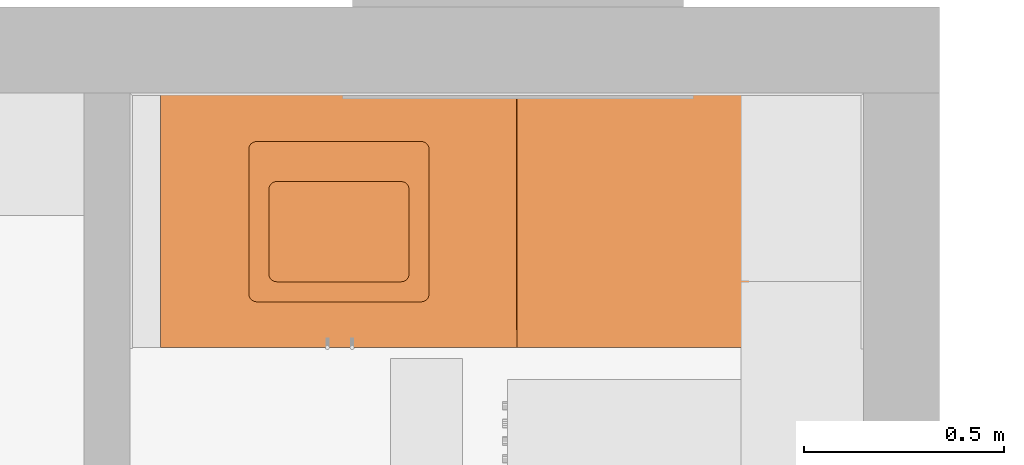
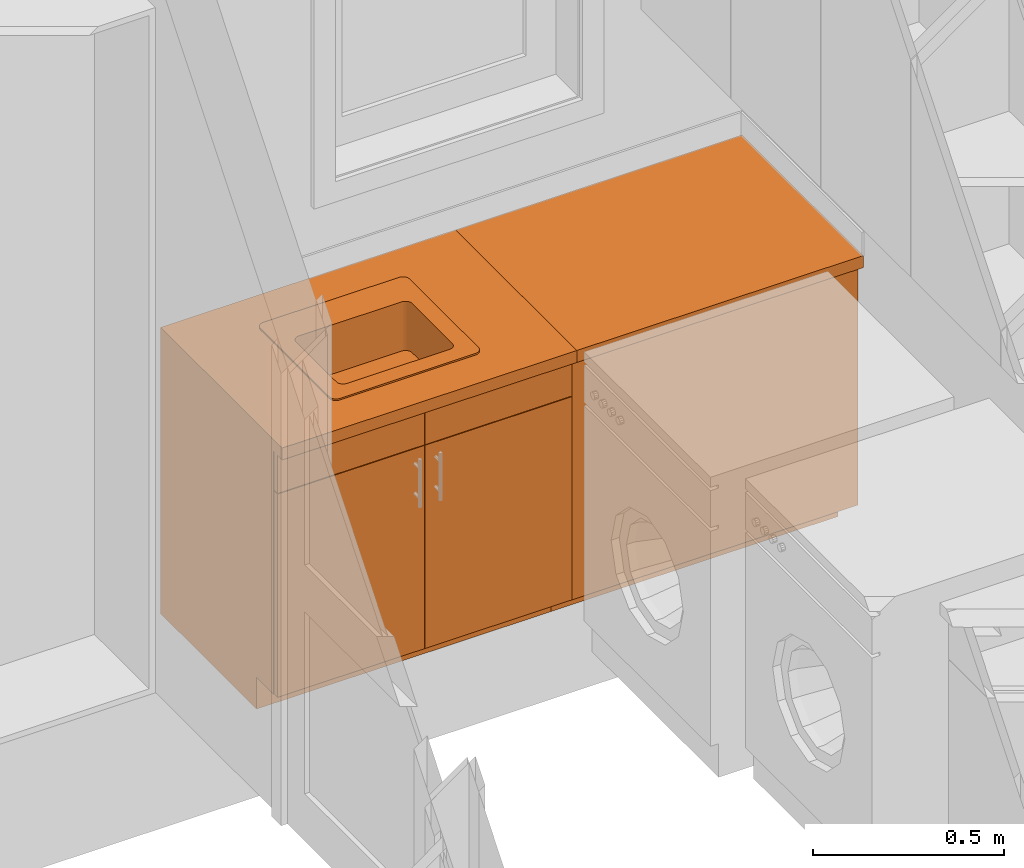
# One storey, part 72 of 77: 2 proxies.
"""IFC2X3 building model written with IfcOpenShell, lengths in inches."""

from ifc_helpers import new_model, entity, si_unit, converted_unit, derived_unit, money_unit, direction, frame, origin_with_axes, place, context, subcontext, project, spatial, open_shell, faceted_brep, surface_model, type_object, element, save


model = new_model("IFC2X3")

# Units and contexts
model_context = context("Model", 3, precision=0.000393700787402, world=origin_with_axes(), true_north=direction((0.0, 1.0)))
body_context = subcontext(model_context, "Body", "Model", "MODEL_VIEW")
ifc_project = project(units=[converted_unit("LENGTHUNIT", "INCH", entity("IfcPositiveLengthMeasure", 0.0254), si_unit("LENGTHUNIT", "METRE"), dimensions=[1, 0, 0, 0, 0, 0, 0]), converted_unit("AREAUNIT", "SQUARE_FOOT", entity("IfcPositiveLengthMeasure", 0.09290304), si_unit("AREAUNIT", "SQUARE_METRE"), dimensions=[2, 0, 0, 0, 0, 0, 0]), si_unit("PLANEANGLEUNIT", "RADIAN"), si_unit("SOLIDANGLEUNIT", "STERADIAN"), money_unit("USD"), converted_unit("TIMEUNIT", "Year", entity("IfcTimeMeasure", 31556926.0), si_unit("TIMEUNIT", "SECOND"), dimensions=[0, 0, 1, 0, 0, 0, 0]), si_unit("MASSUNIT", "GRAM", prefix="KILO"), si_unit("THERMODYNAMICTEMPERATUREUNIT", "DEGREE_CELSIUS"), si_unit("LUMINOUSINTENSITYUNIT", "LUMEN"), si_unit("ENERGYUNIT", "JOULE", prefix="MEGA"), derived_unit("THERMALCONDUCTANCEUNIT", [(si_unit("POWERUNIT", "WATT"), 1), (si_unit("LENGTHUNIT", "METRE"), -1), (si_unit("THERMODYNAMICTEMPERATUREUNIT", "KELVIN"), -1)]), derived_unit("SPECIFICHEATCAPACITYUNIT", [(si_unit("ENERGYUNIT", "JOULE"), 1), (si_unit("MASSUNIT", "GRAM", prefix="KILO"), -1), (si_unit("THERMODYNAMICTEMPERATUREUNIT", "KELVIN"), -1)]), derived_unit("MASSDENSITYUNIT", [(si_unit("MASSUNIT", "GRAM", prefix="KILO"), 1), (si_unit("VOLUMEUNIT", "CUBIC_METRE"), -1)])], contexts=[model_context])

# Site, building, storey
site_placement = place(None, origin_with_axes())
site = spatial("IfcSite", under=ifc_project, at=site_placement, Name="Site", CompositionType="ELEMENT")
building_placement = place(site_placement, origin_with_axes())
building = spatial("IfcBuilding", under=site, at=building_placement, Name="Building", CompositionType="ELEMENT")
storey_placement = place(building_placement, frame((0.0, 0.0, 127.952755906), z_axis=(0.0, 0.0, 1.0), x_axis=(1.0, 0.0, 0.0)))
storey = spatial("IfcBuildingStorey", under=building, at=storey_placement, Name="Second Floor", CompositionType="ELEMENT", Elevation=127.953)

# Proxies
building_element_proxy_type = type_object("IfcBuildingElementProxyType", Name="Base Cabinet Block 25", PredefinedType="NOTDEFINED")
proxy_1_placement = place(storey_placement, frame((650.489373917, 581.014426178, 0.0), z_axis=(0.0, 0.0, 1.0), x_axis=(1.0, 0.0, 0.0)))
element("IfcBuildingElementProxy", 1, at=proxy_1_placement, inside=storey, type_object=building_element_proxy_type, Name="FU - 025", context=body_context, shape_type="SurfaceModel", body=[
    surface_model("IfcShellBasedSurfaceModel", [(11.4173228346, -18.5255904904, 28.1456692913), (23.6220472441, -18.5255904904, 28.1456692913), (23.6220472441, -18.5255904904, 35.9488188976), (11.4173228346, -18.5255904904, 35.9488188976), (11.2805919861, -18.5136280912, 28.1456692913), (11.1480156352, -18.478104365, 28.1456692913), (11.0236220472, -18.4200986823, 28.1456692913), (10.9111908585, -18.3413735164, 28.1456692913), (10.8141382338, -18.2443208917, 28.1456692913), (10.7354130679, -18.131889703, 28.1456692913), (10.6774073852, -18.007496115, 28.1456692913), (10.641883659, -17.8749197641, 28.1456692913), (10.6299212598, -17.7381889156, 28.1456692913), (10.6299212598, -9.47047238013, 28.1456692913), (10.641883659, -9.33374153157, 28.1456692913), (10.6774073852, -9.20116518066, 28.1456692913), (10.7354130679, -9.07677159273, 28.1456692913), (10.8141382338, -8.964340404, 28.1456692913), (10.9111908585, -8.86728777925, 28.1456692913), (11.0236220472, -8.78856261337, 28.1456692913), (11.1480156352, -8.73055693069, 28.1456692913), (11.2805919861, -8.69503320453, 28.1456692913), (11.4173228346, -8.68307080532, 28.1456692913), (23.6220472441, -8.68307080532, 28.1456692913), (23.7587780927, -8.69503320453, 28.1456692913), (23.8913544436, -8.73055693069, 28.1456692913), (24.0157480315, -8.78856261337, 28.1456692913), (24.1281792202, -8.86728777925, 28.1456692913), (24.225231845, -8.964340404, 28.1456692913), (24.3039570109, -9.07677159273, 28.1456692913), (24.3619626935, -9.20116518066, 28.1456692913), (24.3974864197, -9.33374153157, 28.1456692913), (24.4094488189, -9.47047238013, 28.1456692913), (24.4094488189, -17.7381889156, 28.1456692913), (24.3974864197, -17.8749197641, 28.1456692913), (24.3619626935, -18.007496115, 28.1456692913), (24.3039570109, -18.131889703, 28.1456692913), (24.225231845, -18.2443208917, 28.1456692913), (24.1281792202, -18.3413735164, 28.1456692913), (24.0157480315, -18.4200986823, 28.1456692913), (23.8913544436, -18.478104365, 28.1456692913), (23.7587780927, -18.5136280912, 28.1456692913), (23.7587780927, -18.5136280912, 35.9488188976), (11.2805919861, -18.5136280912, 35.9488188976), (11.1480156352, -18.478104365, 35.9488188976), (11.0236220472, -18.4200986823, 35.9488188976), (10.9111908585, -18.3413735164, 35.9488188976), (10.8141382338, -18.2443208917, 35.9488188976), (10.7354130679, -18.131889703, 35.9488188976), (10.6774073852, -18.007496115, 35.9488188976), (10.641883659, -17.8749197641, 35.9488188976), (10.6299212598, -17.7381889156, 35.9488188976), (10.6299212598, -9.47047238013, 35.9488188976), (10.641883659, -9.33374153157, 35.9488188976), (10.6774073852, -9.20116518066, 35.9488188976), (10.7354130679, -9.07677159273, 35.9488188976), (10.8141382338, -8.964340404, 35.9488188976), (10.9111908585, -8.86728777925, 35.9488188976), (11.0236220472, -8.78856261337, 35.9488188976), (11.1480156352, -8.73055693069, 35.9488188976), (11.2805919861, -8.69503320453, 35.9488188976), (11.4173228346, -8.68307080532, 35.9488188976), (23.6220472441, -8.68307080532, 35.9488188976), (23.7587780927, -8.69503320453, 35.9488188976), (23.8913544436, -8.73055693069, 35.9488188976), (24.0157480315, -8.78856261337, 35.9488188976), (24.1281792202, -8.86728777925, 35.9488188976), (24.225231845, -8.964340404, 35.9488188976), (24.3039570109, -9.07677159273, 35.9488188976), (24.3619626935, -9.20116518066, 35.9488188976), (24.3974864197, -9.33374153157, 35.9488188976), (24.4094488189, -9.47047238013, 35.9488188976), (24.4094488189, -17.7381889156, 35.9488188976), (24.3974864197, -17.8749197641, 35.9488188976), (24.3619626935, -18.007496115, 35.9488188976), (24.3039570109, -18.131889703, 35.9488188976), (24.225231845, -18.2443208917, 35.9488188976), (24.1281792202, -18.3413735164, 35.9488188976), (24.0157480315, -18.4200986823, 35.9488188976), (23.8913544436, -18.478104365, 35.9488188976)], [open_shell([[[0, 1, 2, 3]], [[0, 4, 5, 6, 7, 8, 9, 10, 11, 12, 13, 14, 15, 16, 17, 18, 19, 20, 21, 22, 23, 24, 25, 26, 27, 28, 29, 30, 31, 32, 33, 34, 35, 36, 37, 38, 39, 40, 41, 1]], [[1, 41, 42, 2]], [[4, 0, 3, 43]], [[5, 4, 43, 44]], [[6, 5, 44, 45]], [[7, 6, 45, 46]], [[8, 7, 46, 47]], [[9, 8, 47, 48]], [[10, 9, 48, 49]], [[11, 10, 49, 50]], [[12, 11, 50, 51]], [[13, 12, 51, 52]], [[14, 13, 52, 53]], [[15, 14, 53, 54]], [[16, 15, 54, 55]], [[17, 16, 55, 56]], [[18, 17, 56, 57]], [[19, 18, 57, 58]], [[20, 19, 58, 59]], [[21, 20, 59, 60]], [[22, 21, 60, 61]], [[23, 22, 61, 62]], [[24, 23, 62, 63]], [[25, 24, 63, 64]], [[26, 25, 64, 65]], [[27, 26, 65, 66]], [[28, 27, 66, 67]], [[29, 28, 67, 68]], [[30, 29, 68, 69]], [[31, 30, 69, 70]], [[32, 31, 70, 71]], [[33, 32, 71, 72]], [[34, 33, 72, 73]], [[35, 34, 73, 74]], [[36, 35, 74, 75]], [[37, 36, 75, 76]], [[38, 37, 76, 77]], [[39, 38, 77, 78]], [[40, 39, 78, 79]], [[41, 40, 79, 42]]])]),
    faceted_brep([(9.44881889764, -20.4940944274, 35.9488188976), (25.5905511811, -20.4940944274, 35.9488188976), (25.5905511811, -20.4940944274, 36.1456692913), (9.44881889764, -20.4940944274, 36.1456692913), (9.31208804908, -20.4821320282, 35.9488188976), (9.17951169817, -20.446608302, 35.9488188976), (9.05511811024, -20.3886026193, 35.9488188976), (8.94268692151, -20.3098774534, 35.9488188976), (8.84563429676, -20.2128248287, 35.9488188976), (8.76690913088, -20.10039364, 35.9488188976), (8.7089034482, -19.976000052, 35.9488188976), (8.67337972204, -19.8434237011, 35.9488188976), (8.66141732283, -19.7066928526, 35.9488188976), (8.66141732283, -5.53346450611, 35.9488188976), (8.67337972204, -5.39673365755, 35.9488188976), (8.7089034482, -5.26415730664, 35.9488188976), (8.76690913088, -5.13976371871, 35.9488188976), (8.84563429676, -5.02733252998, 35.9488188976), (8.94268692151, -4.93027990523, 35.9488188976), (9.05511811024, -4.85155473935, 35.9488188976), (9.17951169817, -4.79354905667, 35.9488188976), (9.31208804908, -4.75802533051, 35.9488188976), (9.44881889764, -4.74606293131, 35.9488188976), (25.5905511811, -4.74606293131, 35.9488188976), (25.7272820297, -4.75802533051, 35.9488188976), (25.8598583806, -4.79354905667, 35.9488188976), (25.9842519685, -4.85155473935, 35.9488188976), (26.0966831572, -4.93027990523, 35.9488188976), (26.193735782, -5.02733252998, 35.9488188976), (26.2724609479, -5.13976371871, 35.9488188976), (26.3304666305, -5.26415730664, 35.9488188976), (26.3659903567, -5.39673365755, 35.9488188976), (26.3779527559, -5.53346450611, 35.9488188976), (26.3779527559, -19.7066928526, 35.9488188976), (26.3659903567, -19.8434237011, 35.9488188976), (26.3304666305, -19.976000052, 35.9488188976), (26.2724609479, -20.10039364, 35.9488188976), (26.193735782, -20.2128248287, 35.9488188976), (26.0966831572, -20.3098774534, 35.9488188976), (25.9842519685, -20.3886026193, 35.9488188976), (25.8598583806, -20.446608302, 35.9488188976), (25.7272820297, -20.4821320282, 35.9488188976), (11.4173228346, -18.5255904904, 35.9488188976), (23.6220472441, -18.5255904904, 35.9488188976), (23.7587780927, -18.5136280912, 35.9488188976), (23.8913544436, -18.478104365, 35.9488188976), (24.0157480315, -18.4200986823, 35.9488188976), (24.1281792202, -18.3413735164, 35.9488188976), (24.225231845, -18.2443208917, 35.9488188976), (24.3039570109, -18.131889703, 35.9488188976), (24.3619626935, -18.007496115, 35.9488188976), (24.3974864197, -17.8749197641, 35.9488188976), (24.4094488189, -17.7381889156, 35.9488188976), (24.4094488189, -9.47047238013, 35.9488188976), (24.3974864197, -9.33374153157, 35.9488188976), (24.3619626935, -9.20116518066, 35.9488188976), (24.3039570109, -9.07677159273, 35.9488188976), (24.225231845, -8.964340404, 35.9488188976), (24.1281792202, -8.86728777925, 35.9488188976), (24.0157480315, -8.78856261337, 35.9488188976), (23.8913544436, -8.73055693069, 35.9488188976), (23.7587780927, -8.69503320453, 35.9488188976), (23.6220472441, -8.68307080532, 35.9488188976), (11.4173228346, -8.68307080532, 35.9488188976), (11.2805919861, -8.69503320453, 35.9488188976), (11.1480156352, -8.73055693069, 35.9488188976), (11.0236220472, -8.78856261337, 35.9488188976), (10.9111908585, -8.86728777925, 35.9488188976), (10.8141382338, -8.964340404, 35.9488188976), (10.7354130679, -9.07677159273, 35.9488188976), (10.6774073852, -9.20116518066, 35.9488188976), (10.641883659, -9.33374153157, 35.9488188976), (10.6299212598, -9.47047238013, 35.9488188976), (10.6299212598, -17.7381889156, 35.9488188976), (10.641883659, -17.8749197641, 35.9488188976), (10.6774073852, -18.007496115, 35.9488188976), (10.7354130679, -18.131889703, 35.9488188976), (10.8141382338, -18.2443208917, 35.9488188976), (10.9111908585, -18.3413735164, 35.9488188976), (11.0236220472, -18.4200986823, 35.9488188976), (11.1480156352, -18.478104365, 35.9488188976), (11.2805919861, -18.5136280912, 35.9488188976), (25.7272820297, -20.4821320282, 36.1456692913), (25.8598583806, -20.446608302, 36.1456692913), (25.9842519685, -20.3886026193, 36.1456692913), (26.0966831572, -20.3098774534, 36.1456692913), (26.193735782, -20.2128248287, 36.1456692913), (26.2724609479, -20.10039364, 36.1456692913), (26.3304666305, -19.976000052, 36.1456692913), (26.3659903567, -19.8434237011, 36.1456692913), (26.3779527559, -19.7066928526, 36.1456692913), (26.3779527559, -5.53346450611, 36.1456692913), (26.3659903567, -5.39673365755, 36.1456692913), (26.3304666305, -5.26415730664, 36.1456692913), (26.2724609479, -5.13976371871, 36.1456692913), (26.193735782, -5.02733252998, 36.1456692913), (26.0966831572, -4.93027990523, 36.1456692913), (25.9842519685, -4.85155473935, 36.1456692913), (25.8598583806, -4.79354905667, 36.1456692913), (25.7272820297, -4.75802533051, 36.1456692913), (25.5905511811, -4.74606293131, 36.1456692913), (9.44881889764, -4.74606293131, 36.1456692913), (9.31208804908, -4.75802533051, 36.1456692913), (9.17951169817, -4.79354905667, 36.1456692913), (9.05511811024, -4.85155473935, 36.1456692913), (8.94268692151, -4.93027990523, 36.1456692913), (8.84563429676, -5.02733252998, 36.1456692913), (8.76690913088, -5.13976371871, 36.1456692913), (8.7089034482, -5.26415730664, 36.1456692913), (8.67337972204, -5.39673365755, 36.1456692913), (8.66141732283, -5.53346450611, 36.1456692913), (8.66141732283, -19.7066928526, 36.1456692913), (8.67337972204, -19.8434237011, 36.1456692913), (8.7089034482, -19.976000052, 36.1456692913), (8.76690913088, -20.10039364, 36.1456692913), (8.84563429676, -20.2128248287, 36.1456692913), (8.94268692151, -20.3098774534, 36.1456692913), (9.05511811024, -20.3886026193, 36.1456692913), (9.17951169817, -20.446608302, 36.1456692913), (9.31208804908, -20.4821320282, 36.1456692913), (11.4173228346, -18.5255904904, 36.1456692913), (11.2805919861, -18.5136280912, 36.1456692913), (11.1480156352, -18.478104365, 36.1456692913), (11.0236220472, -18.4200986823, 36.1456692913), (10.9111908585, -18.3413735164, 36.1456692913), (10.8141382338, -18.2443208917, 36.1456692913), (10.7354130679, -18.131889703, 36.1456692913), (10.6774073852, -18.007496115, 36.1456692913), (10.641883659, -17.8749197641, 36.1456692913), (10.6299212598, -17.7381889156, 36.1456692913), (10.6299212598, -9.47047238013, 36.1456692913), (10.641883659, -9.33374153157, 36.1456692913), (10.6774073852, -9.20116518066, 36.1456692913), (10.7354130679, -9.07677159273, 36.1456692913), (10.8141382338, -8.964340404, 36.1456692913), (10.9111908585, -8.86728777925, 36.1456692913), (11.0236220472, -8.78856261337, 36.1456692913), (11.1480156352, -8.73055693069, 36.1456692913), (11.2805919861, -8.69503320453, 36.1456692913), (11.4173228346, -8.68307080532, 36.1456692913), (23.6220472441, -8.68307080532, 36.1456692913), (23.7587780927, -8.69503320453, 36.1456692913), (23.8913544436, -8.73055693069, 36.1456692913), (24.0157480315, -8.78856261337, 36.1456692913), (24.1281792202, -8.86728777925, 36.1456692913), (24.225231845, -8.964340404, 36.1456692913), (24.3039570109, -9.07677159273, 36.1456692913), (24.3619626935, -9.20116518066, 36.1456692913), (24.3974864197, -9.33374153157, 36.1456692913), (24.4094488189, -9.47047238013, 36.1456692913), (24.4094488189, -17.7381889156, 36.1456692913), (24.3974864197, -17.8749197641, 36.1456692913), (24.3619626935, -18.007496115, 36.1456692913), (24.3039570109, -18.131889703, 36.1456692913), (24.225231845, -18.2443208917, 36.1456692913), (24.1281792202, -18.3413735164, 36.1456692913), (24.0157480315, -18.4200986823, 36.1456692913), (23.8913544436, -18.478104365, 36.1456692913), (23.7587780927, -18.5136280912, 36.1456692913), (23.6220472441, -18.5255904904, 36.1456692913)], [[[0, 1, 2, 3]], [[0, 4, 5, 6, 7, 8, 9, 10, 11, 12, 13, 14, 15, 16, 17, 18, 19, 20, 21, 22, 23, 24, 25, 26, 27, 28, 29, 30, 31, 32, 33, 34, 35, 36, 37, 38, 39, 40, 41, 1], [42, 43, 44, 45, 46, 47, 48, 49, 50, 51, 52, 53, 54, 55, 56, 57, 58, 59, 60, 61, 62, 63, 64, 65, 66, 67, 68, 69, 70, 71, 72, 73, 74, 75, 76, 77, 78, 79, 80, 81]], [[1, 41, 82, 2]], [[3, 2, 82, 83, 84, 85, 86, 87, 88, 89, 90, 91, 92, 93, 94, 95, 96, 97, 98, 99, 100, 101, 102, 103, 104, 105, 106, 107, 108, 109, 110, 111, 112, 113, 114, 115, 116, 117, 118, 119], [120, 121, 122, 123, 124, 125, 126, 127, 128, 129, 130, 131, 132, 133, 134, 135, 136, 137, 138, 139, 140, 141, 142, 143, 144, 145, 146, 147, 148, 149, 150, 151, 152, 153, 154, 155, 156, 157, 158, 159]], [[4, 0, 3, 119]], [[5, 4, 119, 118]], [[6, 5, 118, 117]], [[7, 6, 117, 116]], [[8, 7, 116, 115]], [[9, 8, 115, 114]], [[10, 9, 114, 113]], [[11, 10, 113, 112]], [[12, 11, 112, 111]], [[13, 12, 111, 110]], [[14, 13, 110, 109]], [[15, 14, 109, 108]], [[16, 15, 108, 107]], [[17, 16, 107, 106]], [[18, 17, 106, 105]], [[19, 18, 105, 104]], [[20, 19, 104, 103]], [[21, 20, 103, 102]], [[22, 21, 102, 101]], [[23, 22, 101, 100]], [[24, 23, 100, 99]], [[25, 24, 99, 98]], [[26, 25, 98, 97]], [[27, 26, 97, 96]], [[28, 27, 96, 95]], [[29, 28, 95, 94]], [[30, 29, 94, 93]], [[31, 30, 93, 92]], [[32, 31, 92, 91]], [[33, 32, 91, 90]], [[34, 33, 90, 89]], [[35, 34, 89, 88]], [[36, 35, 88, 87]], [[37, 36, 87, 86]], [[38, 37, 86, 85]], [[39, 38, 85, 84]], [[40, 39, 84, 83]], [[41, 40, 83, 82]], [[43, 42, 120, 159]], [[44, 43, 159, 158]], [[45, 44, 158, 157]], [[46, 45, 157, 156]], [[47, 46, 156, 155]], [[48, 47, 155, 154]], [[49, 48, 154, 153]], [[50, 49, 153, 152]], [[51, 50, 152, 151]], [[52, 51, 151, 150]], [[53, 52, 150, 149]], [[54, 53, 149, 148]], [[55, 54, 148, 147]], [[56, 55, 147, 146]], [[57, 56, 146, 145]], [[58, 57, 145, 144]], [[59, 58, 144, 143]], [[60, 59, 143, 142]], [[61, 60, 142, 141]], [[62, 61, 141, 140]], [[63, 62, 140, 139]], [[64, 63, 139, 138]], [[65, 64, 138, 137]], [[66, 65, 137, 136]], [[67, 66, 136, 135]], [[68, 67, 135, 134]], [[69, 68, 134, 133]], [[70, 69, 133, 132]], [[71, 70, 132, 131]], [[72, 71, 131, 130]], [[73, 72, 130, 129]], [[74, 73, 129, 128]], [[75, 74, 128, 127]], [[76, 75, 127, 126]], [[77, 76, 126, 125]], [[78, 77, 125, 124]], [[79, 78, 124, 123]], [[80, 79, 123, 122]], [[81, 80, 122, 121]], [[42, 81, 121, 120]]]),
    faceted_brep([(0.0, 0.0, 34.4488188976), (35.0497358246, 0.0, 34.4488188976), (35.0497358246, -24.9999999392, 34.4488188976), (0.0, -24.9999999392, 34.4488188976), (25.5785887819, -19.0560221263, 34.4488188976), (25.5905511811, -18.9192912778, 34.4488188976), (25.5905511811, -6.32086608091, 34.4488188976), (25.5785887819, -6.18413523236, 34.4488188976), (25.5430650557, -6.05155888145, 34.4488188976), (25.4850593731, -5.92716529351, 34.4488188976), (25.4063342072, -5.81473410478, 34.4488188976), (25.3092815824, -5.71768148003, 34.4488188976), (25.1968503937, -5.63895631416, 34.4488188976), (25.0724568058, -5.58095063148, 34.4488188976), (24.9398804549, -5.54542690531, 34.4488188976), (24.8031496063, -5.53346450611, 34.4488188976), (10.2362204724, -5.53346450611, 34.4488188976), (10.0994896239, -5.54542690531, 34.4488188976), (9.96691327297, -5.58095063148, 34.4488188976), (9.84251968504, -5.63895631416, 34.4488188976), (9.73008849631, -5.71768148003, 34.4488188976), (9.63303587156, -5.81473410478, 34.4488188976), (9.55431070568, -5.92716529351, 34.4488188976), (9.496305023, -6.05155888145, 34.4488188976), (9.46078129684, -6.18413523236, 34.4488188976), (9.44881889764, -6.32086608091, 34.4488188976), (9.44881889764, -18.9192912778, 34.4488188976), (9.46078129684, -19.0560221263, 34.4488188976), (9.496305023, -19.1885984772, 34.4488188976), (9.55431070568, -19.3129920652, 34.4488188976), (9.63303587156, -19.4254232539, 34.4488188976), (9.73008849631, -19.5224758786, 34.4488188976), (9.84251968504, -19.6012010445, 34.4488188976), (9.96691327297, -19.6592067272, 34.4488188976), (10.0994896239, -19.6947304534, 34.4488188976), (10.2362204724, -19.7066928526, 34.4488188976), (24.8031496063, -19.7066928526, 34.4488188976), (24.9398804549, -19.6947304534, 34.4488188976), (25.0724568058, -19.6592067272, 34.4488188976), (25.1968503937, -19.6012010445, 34.4488188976), (25.3092815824, -19.5224758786, 34.4488188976), (25.4063342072, -19.4254232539, 34.4488188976), (25.4850593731, -19.3129920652, 34.4488188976), (25.5430650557, -19.1885984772, 34.4488188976), (0.0, 0.0, 35.9488188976), (35.0497358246, 0.0, 35.9488188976), (35.0497358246, -24.9999999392, 35.9488188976), (0.0, -24.9999999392, 35.9488188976), (25.5785887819, -19.0560221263, 35.9488188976), (25.5905511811, -18.9192912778, 35.9488188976), (25.5905511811, -6.32086608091, 35.9488188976), (25.5785887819, -6.18413523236, 35.9488188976), (25.5430650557, -6.05155888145, 35.9488188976), (25.4850593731, -5.92716529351, 35.9488188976), (25.4063342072, -5.81473410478, 35.9488188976), (25.3092815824, -5.71768148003, 35.9488188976), (25.1968503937, -5.63895631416, 35.9488188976), (25.0724568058, -5.58095063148, 35.9488188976), (24.9398804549, -5.54542690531, 35.9488188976), (24.8031496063, -5.53346450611, 35.9488188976), (10.2362204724, -5.53346450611, 35.9488188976), (10.0994896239, -5.54542690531, 35.9488188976), (9.96691327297, -5.58095063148, 35.9488188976), (9.84251968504, -5.63895631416, 35.9488188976), (9.73008849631, -5.71768148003, 35.9488188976), (9.63303587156, -5.81473410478, 35.9488188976), (9.55431070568, -5.92716529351, 35.9488188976), (9.496305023, -6.05155888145, 35.9488188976), (9.46078129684, -6.18413523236, 35.9488188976), (9.44881889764, -6.32086608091, 35.9488188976), (9.44881889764, -18.9192912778, 35.9488188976), (9.46078129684, -19.0560221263, 35.9488188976), (9.496305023, -19.1885984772, 35.9488188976), (9.55431070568, -19.3129920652, 35.9488188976), (9.63303587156, -19.4254232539, 35.9488188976), (9.73008849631, -19.5224758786, 35.9488188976), (9.84251968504, -19.6012010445, 35.9488188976), (9.96691327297, -19.6592067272, 35.9488188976), (10.0994896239, -19.6947304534, 35.9488188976), (10.2362204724, -19.7066928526, 35.9488188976), (24.8031496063, -19.7066928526, 35.9488188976), (24.9398804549, -19.6947304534, 35.9488188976), (25.0724568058, -19.6592067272, 35.9488188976), (25.1968503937, -19.6012010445, 35.9488188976), (25.3092815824, -19.5224758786, 35.9488188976), (25.4063342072, -19.4254232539, 35.9488188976), (25.4850593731, -19.3129920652, 35.9488188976), (25.5430650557, -19.1885984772, 35.9488188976)], [[[0, 1, 2, 3], [4, 5, 6, 7, 8, 9, 10, 11, 12, 13, 14, 15, 16, 17, 18, 19, 20, 21, 22, 23, 24, 25, 26, 27, 28, 29, 30, 31, 32, 33, 34, 35, 36, 37, 38, 39, 40, 41, 42, 43]], [[0, 44, 45, 1]], [[1, 45, 46, 2]], [[2, 46, 47, 3]], [[3, 47, 44, 0]], [[48, 49, 5, 4]], [[49, 50, 6, 5]], [[50, 51, 7, 6]], [[51, 52, 8, 7]], [[52, 53, 9, 8]], [[53, 54, 10, 9]], [[54, 55, 11, 10]], [[55, 56, 12, 11]], [[56, 57, 13, 12]], [[57, 58, 14, 13]], [[58, 59, 15, 14]], [[59, 60, 16, 15]], [[60, 61, 17, 16]], [[61, 62, 18, 17]], [[62, 63, 19, 18]], [[63, 64, 20, 19]], [[64, 65, 21, 20]], [[65, 66, 22, 21]], [[66, 67, 23, 22]], [[67, 68, 24, 23]], [[68, 69, 25, 24]], [[69, 70, 26, 25]], [[70, 71, 27, 26]], [[71, 72, 28, 27]], [[72, 73, 29, 28]], [[73, 74, 30, 29]], [[74, 75, 31, 30]], [[75, 76, 32, 31]], [[76, 77, 33, 32]], [[77, 78, 34, 33]], [[78, 79, 35, 34]], [[79, 80, 36, 35]], [[80, 81, 37, 36]], [[81, 82, 38, 37]], [[82, 83, 39, 38]], [[83, 84, 40, 39]], [[84, 85, 41, 40]], [[85, 86, 42, 41]], [[86, 87, 43, 42]], [[87, 48, 4, 43]], [[46, 45, 44, 47], [52, 51, 50, 49, 48, 87, 86, 85, 84, 83, 82, 81, 80, 79, 78, 77, 76, 75, 74, 73, 72, 71, 70, 69, 68, 67, 66, 65, 64, 63, 62, 61, 60, 59, 58, 57, 56, 55, 54, 53]]]),
    faceted_brep([(0.75, -23.2499999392, 29.2155511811), (34.2893700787, -23.2499999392, 29.2155511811), (34.2893700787, -23.2499999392, 29.9655511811), (0.75, -23.2499999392, 29.9655511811), (0.75, -0.75, 29.2155511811), (34.2893700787, -0.75, 29.2155511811), (34.2893700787, -0.75, 29.9655511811), (0.75, -0.75, 29.9655511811)], [[[0, 1, 2, 3]], [[0, 4, 5, 1]], [[1, 5, 6, 2]], [[3, 2, 6, 7]], [[4, 0, 3, 7]], [[5, 4, 7, 6]]]),
    faceted_brep([(0.0393700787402, -23.2499999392, 4.03937007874), (17.4803149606, -23.2499999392, 4.03937007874), (17.4803149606, -23.9999999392, 4.03937007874), (0.0393700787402, -23.9999999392, 4.03937007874), (0.0393700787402, -23.2499999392, 29.5511811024), (17.4803149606, -23.2499999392, 29.5511811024), (17.4803149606, -23.9999999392, 29.5511811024), (0.0393700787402, -23.9999999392, 29.5511811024)], [[[0, 1, 2, 3]], [[0, 4, 5, 1]], [[1, 5, 6, 2]], [[3, 2, 6, 7]], [[4, 0, 3, 7]], [[5, 4, 7, 6]]]),
    faceted_brep([(35.0, -23.2499999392, 4.03937007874), (35.0, -23.9999999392, 4.03937007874), (17.5590551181, -23.9999999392, 4.03937007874), (17.5590551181, -23.2499999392, 4.03937007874), (35.0, -23.2499999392, 29.5511811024), (35.0, -23.9999999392, 29.5511811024), (17.5590551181, -23.9999999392, 29.5511811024), (17.5590551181, -23.2499999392, 29.5511811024)], [[[0, 1, 2, 3]], [[4, 5, 1, 0]], [[1, 5, 6, 2]], [[3, 2, 6, 7]], [[0, 3, 7, 4]], [[7, 6, 5, 4]]]),
    faceted_brep([(0.0393700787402, -23.2499999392, 29.6299212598), (17.4803149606, -23.2499999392, 29.6299212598), (17.4803149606, -23.9999999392, 29.6299212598), (0.0393700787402, -23.9999999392, 29.6299212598), (0.0393700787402, -23.2499999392, 34.4094488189), (17.4803149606, -23.2499999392, 34.4094488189), (17.4803149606, -23.9999999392, 34.4094488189), (0.0393700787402, -23.9999999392, 34.4094488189)], [[[0, 1, 2, 3]], [[0, 4, 5, 1]], [[1, 5, 6, 2]], [[3, 2, 6, 7]], [[4, 0, 3, 7]], [[5, 4, 7, 6]]]),
    faceted_brep([(17.5590551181, -23.2499999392, 29.6299212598), (35.0, -23.2499999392, 29.6299212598), (35.0, -23.9999999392, 29.6299212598), (17.5590551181, -23.9999999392, 29.6299212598), (17.5590551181, -23.2499999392, 34.4094488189), (35.0, -23.2499999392, 34.4094488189), (35.0, -23.9999999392, 34.4094488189), (17.5590551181, -23.9999999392, 34.4094488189)], [[[0, 1, 2, 3]], [[0, 4, 5, 1]], [[1, 5, 6, 2]], [[3, 2, 6, 7]], [[4, 0, 3, 7]], [[5, 4, 7, 6]]]),
    faceted_brep([(0.75, -23.2499999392, 4.0), (34.2893700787, -23.2499999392, 4.0), (34.2893700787, -23.2499999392, 4.75), (0.75, -23.2499999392, 4.75), (0.75, 0.0, 4.0), (34.2893700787, 0.0, 4.0), (34.2893700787, 0.0, 4.75), (0.75, 0.0, 4.75)], [[[0, 1, 2, 3]], [[0, 4, 5, 1]], [[1, 5, 6, 2]], [[3, 2, 6, 7]], [[4, 0, 3, 7]], [[5, 4, 7, 6]]]),
    faceted_brep([(0.75, -23.2499999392, 33.6988188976), (0.75, -20.8877952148, 33.6988188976), (34.2893700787, -20.8877952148, 33.6988188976), (34.2893700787, -23.2499999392, 33.6988188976), (0.75, -23.2499999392, 34.4488188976), (0.75, -20.8877952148, 34.4488188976), (34.2893700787, -20.8877952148, 34.4488188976), (34.2893700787, -23.2499999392, 34.4488188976)], [[[0, 1, 2, 3]], [[0, 4, 5, 1]], [[1, 5, 6, 2]], [[3, 2, 6, 7]], [[4, 0, 3, 7]], [[5, 4, 7, 6]]]),
    faceted_brep([(34.2893700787, 0.0, 33.6988188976), (34.2893700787, -2.36220472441, 33.6988188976), (0.75, -2.36220472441, 33.6988188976), (0.75, 0.0, 33.6988188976), (34.2893700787, 0.0, 34.4488188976), (34.2893700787, -2.36220472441, 34.4488188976), (0.75, -2.36220472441, 34.4488188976), (0.75, 0.0, 34.4488188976)], [[[0, 1, 2, 3]], [[0, 4, 5, 1]], [[1, 5, 6, 2]], [[3, 2, 6, 7]], [[4, 0, 3, 7]], [[5, 4, 7, 6]]]),
    faceted_brep([(0.0, 0.0, 4.0), (0.0, -23.2499999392, 4.0), (0.0, -23.2499999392, 34.4488188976), (0.0, 0.0, 34.4488188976), (0.75, 0.0, 4.0), (0.75, -23.2499999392, 4.0), (0.75, -23.2499999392, 34.4488188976), (0.75, 0.0, 34.4488188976)], [[[0, 1, 2, 3]], [[0, 4, 5, 1]], [[1, 5, 6, 2]], [[3, 2, 6, 7]], [[4, 0, 3, 7]], [[5, 4, 7, 6]]]),
    faceted_brep([(35.0393700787, -23.2499999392, 4.0), (35.0393700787, 0.0, 4.0), (35.0393700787, 0.0, 34.4488188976), (35.0393700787, -23.2499999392, 34.4488188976), (34.2893700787, -23.2499999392, 4.0), (34.2893700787, 0.0, 4.0), (34.2893700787, 0.0, 34.4488188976), (34.2893700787, -23.2499999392, 34.4488188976)], [[[0, 1, 2, 3]], [[0, 4, 5, 1]], [[1, 5, 6, 2]], [[3, 2, 6, 7]], [[4, 0, 3, 7]], [[5, 4, 7, 6]]]),
    faceted_brep([(34.2893700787, -0.375, 4.75), (0.75, -0.375, 4.75), (0.75, -0.375, 33.6988188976), (34.2893700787, -0.375, 33.6988188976), (34.2893700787, -0.75, 4.75), (0.75, -0.75, 4.75), (0.75, -0.75, 33.6988188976), (34.2893700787, -0.75, 33.6988188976)], [[[0, 1, 2, 3]], [[0, 4, 5, 1]], [[1, 5, 6, 2]], [[3, 2, 6, 7]], [[4, 0, 3, 7]], [[5, 4, 7, 6]]]),
    faceted_brep([(0.0, -19.7499999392, 0.0), (35.0393700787, -19.7499999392, 0.0), (35.0393700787, -19.7499999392, 4.0), (0.0, -19.7499999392, 4.0), (0.0, 0.0, 0.0), (35.0393700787, 0.0, 0.0), (35.0393700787, 0.0, 4.0), (0.0, 0.0, 4.0)], [[[0, 1, 2, 3]], [[0, 4, 5, 1]], [[1, 5, 6, 2]], [[3, 2, 6, 7]], [[4, 0, 3, 7]], [[5, 4, 7, 6]]]),
])
proxy_2_placement = place(storey_placement, frame((685.489656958, 581.014426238, 0.0), z_axis=(0.0, 0.0, 1.0), x_axis=(1.0, 0.0, 0.0)))
element("IfcBuildingElementProxy", 2, at=proxy_2_placement, inside=storey, type_object=building_element_proxy_type, Name="FU - 007", context=body_context, shape_type="Brep", body=[
    faceted_brep([(0.0, -25.0, 34.4488188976), (34.0297747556, -25.0, 34.4488188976), (34.0297747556, -25.0, 35.9488188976), (0.0, -25.0, 35.9488188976), (0.0, 0.0, 34.4488188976), (34.0297747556, 0.0, 34.4488188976), (34.0297747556, 0.0, 35.9488188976), (0.0, 0.0, 35.9488188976)], [[[0, 1, 2, 3]], [[0, 4, 5, 1]], [[1, 5, 6, 2]], [[3, 2, 6, 7]], [[4, 0, 3, 7]], [[5, 4, 7, 6]]]),
    faceted_brep([(0.0140267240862, -23.25, 4.03937007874), (33.9904046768, -23.25, 4.03937007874), (33.9904046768, -24.0, 4.03937007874), (0.0140267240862, -24.0, 4.03937007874), (0.0140267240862, -23.25, 34.4094488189), (33.9904046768, -23.25, 34.4094488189), (33.9904046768, -24.0, 34.4094488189), (0.0140267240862, -24.0, 34.4094488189)], [[[0, 1, 2, 3]], [[0, 4, 5, 1]], [[1, 5, 6, 2]], [[3, 2, 6, 7]], [[4, 0, 3, 7]], [[5, 4, 7, 6]]]),
    faceted_brep([(0.724656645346, -23.25, 4.0), (33.2797747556, -23.25, 4.0), (33.2797747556, -23.25, 4.75), (0.724656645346, -23.25, 4.75), (0.724656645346, 0.0, 4.0), (33.2797747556, 0.0, 4.0), (33.2797747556, 0.0, 4.75), (0.724656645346, 0.0, 4.75)], [[[0, 1, 2, 3]], [[0, 4, 5, 1]], [[1, 5, 6, 2]], [[3, 2, 6, 7]], [[4, 0, 3, 7]], [[5, 4, 7, 6]]]),
    faceted_brep([(0.724656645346, -23.25, 33.6988188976), (0.724656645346, -20.8877952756, 33.6988188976), (33.2797747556, -20.8877952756, 33.6988188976), (33.2797747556, -23.25, 33.6988188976), (0.724656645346, -23.25, 34.4488188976), (0.724656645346, -20.8877952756, 34.4488188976), (33.2797747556, -20.8877952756, 34.4488188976), (33.2797747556, -23.25, 34.4488188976)], [[[0, 1, 2, 3]], [[0, 4, 5, 1]], [[1, 5, 6, 2]], [[3, 2, 6, 7]], [[4, 0, 3, 7]], [[5, 4, 7, 6]]]),
    faceted_brep([(33.2797747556, 0.0, 33.6988188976), (33.2797747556, -2.36220472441, 33.6988188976), (0.724656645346, -2.36220472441, 33.6988188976), (0.724656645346, 0.0, 33.6988188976), (33.2797747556, 0.0, 34.4488188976), (33.2797747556, -2.36220472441, 34.4488188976), (0.724656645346, -2.36220472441, 34.4488188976), (0.724656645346, 0.0, 34.4488188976)], [[[0, 1, 2, 3]], [[0, 4, 5, 1]], [[1, 5, 6, 2]], [[3, 2, 6, 7]], [[4, 0, 3, 7]], [[5, 4, 7, 6]]]),
    faceted_brep([(-0.0253433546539, 0.0, 4.0), (-0.0253433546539, -23.25, 4.0), (-0.0253433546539, -23.25, 34.4488188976), (-0.0253433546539, 0.0, 34.4488188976), (0.724656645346, 0.0, 4.0), (0.724656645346, -23.25, 4.0), (0.724656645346, -23.25, 34.4488188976), (0.724656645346, 0.0, 34.4488188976)], [[[0, 1, 2, 3]], [[0, 4, 5, 1]], [[1, 5, 6, 2]], [[3, 2, 6, 7]], [[4, 0, 3, 7]], [[5, 4, 7, 6]]]),
    faceted_brep([(34.0297747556, -23.25, 4.0), (34.0297747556, 0.0, 4.0), (34.0297747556, 0.0, 34.4488188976), (34.0297747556, -23.25, 34.4488188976), (33.2797747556, -23.25, 4.0), (33.2797747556, 0.0, 4.0), (33.2797747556, 0.0, 34.4488188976), (33.2797747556, -23.25, 34.4488188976)], [[[0, 1, 2, 3]], [[0, 4, 5, 1]], [[1, 5, 6, 2]], [[3, 2, 6, 7]], [[4, 0, 3, 7]], [[5, 4, 7, 6]]]),
    faceted_brep([(33.2797747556, -0.375, 4.75), (0.724656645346, -0.375, 4.75), (0.724656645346, -0.375, 33.6988188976), (33.2797747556, -0.375, 33.6988188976), (33.2797747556, -0.75, 4.75), (0.724656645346, -0.75, 4.75), (0.724656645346, -0.75, 33.6988188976), (33.2797747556, -0.75, 33.6988188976)], [[[0, 1, 2, 3]], [[0, 4, 5, 1]], [[1, 5, 6, 2]], [[3, 2, 6, 7]], [[4, 0, 3, 7]], [[5, 4, 7, 6]]]),
    faceted_brep([(-0.0253433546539, -19.75, 0.0), (34.0297747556, -19.75, 0.0), (34.0297747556, -19.75, 4.0), (-0.0253433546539, -19.75, 4.0), (-0.0253433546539, 0.0, 0.0), (34.0297747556, 0.0, 0.0), (34.0297747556, 0.0, 4.0), (-0.0253433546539, 0.0, 4.0)], [[[0, 1, 2, 3]], [[0, 4, 5, 1]], [[1, 5, 6, 2]], [[3, 2, 6, 7]], [[4, 0, 3, 7]], [[5, 4, 7, 6]]]),
])

save(model, "model.ifc")
